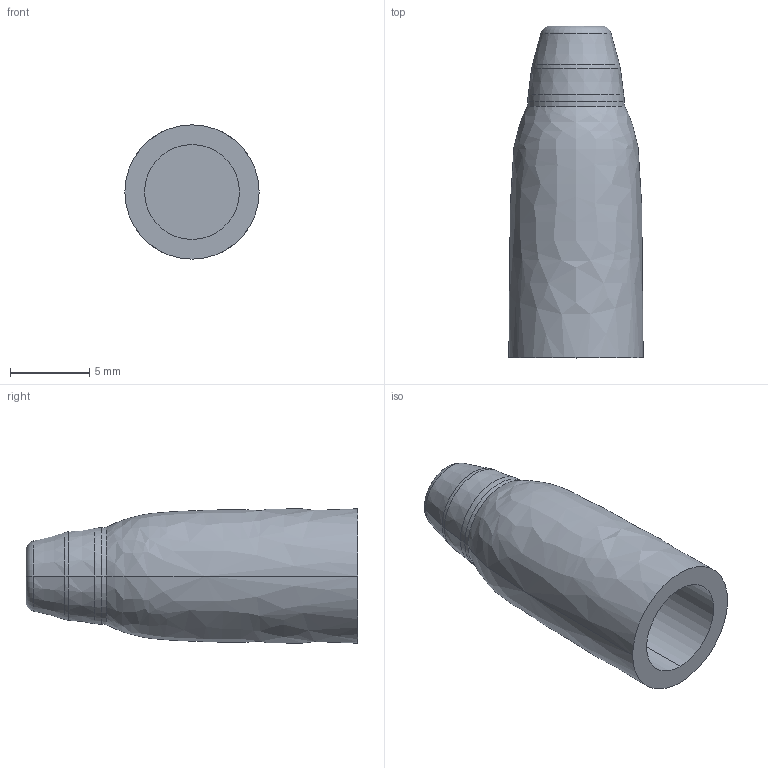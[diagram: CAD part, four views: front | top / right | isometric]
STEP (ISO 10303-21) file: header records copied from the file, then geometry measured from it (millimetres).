
FILE_DESCRIPTION (( 'STEP AP203' ), '1' );
FILE_NAME ('SILVENT B02.STEP', '2020-05-27T11:15:19', ( '' ), ( '' ), 'SwSTEP 2.0', 'SolidWorks 2016', '' );
FILE_SCHEMA (( 'CONFIG_CONTROL_DESIGN' ));
Length unit declared in the file: millimetre
Products named in the file (1): SILVENT B02
Bounding box: 8.5 x 21 x 8.5 mm (x, y, z)
Volume: 731.5 mm3; surface area: 753.7 mm2
Topology: 1 solids, 1 shells, 34 faces, 66 edges, 36 vertices
Faces by surface type: torus 14, cone 10, plane 4, bspline 4, cylinder 2
Entity records: 1033 total; most frequent: CARTESIAN_POINT 249, DIRECTION 174, ORIENTED_EDGE 132, AXIS2_PLACEMENT_3D 81, EDGE_CURVE 66, CIRCLE 50, VERTEX_POINT 36, EDGE_LOOP 36
